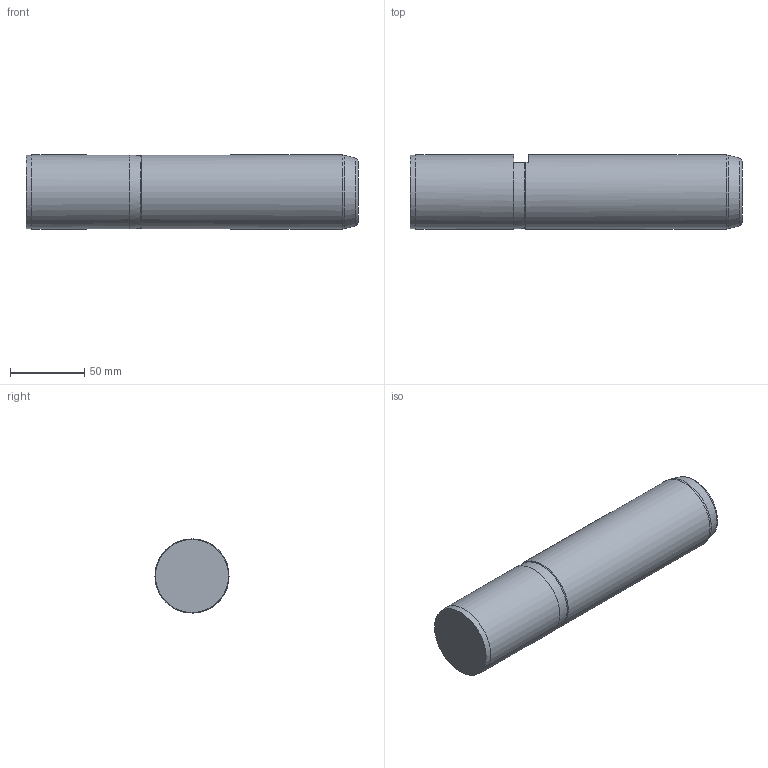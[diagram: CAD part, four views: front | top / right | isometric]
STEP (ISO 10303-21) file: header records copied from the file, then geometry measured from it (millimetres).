
FILE_DESCRIPTION(/* description */ ('Impex Ready, www.impex-ready.pl'),/* implementation_level */ '2;1');
FILE_NAME(/* name */ 'C:\Users\VIKKY\Nextcloud\SM\projekt 10 - części na stronę internetową\Pliki_3D_new\266 Słupy VW\266_Słupy_VW_STEP\VW50224.ipt.step',/* time_stamp */ '2022-01-18T10:02:02+01:00',/* author */ ('SM'),/* organization */ (''),/* preprocessor_version */ 'ST-DEVELOPER v18.1',/* originating_system */ 'Autodesk Inventor 2021',/* authorisation */ '');
FILE_SCHEMA (('AUTOMOTIVE_DESIGN { 1 0 10303 214 3 1 1 }'));
Length unit declared in the file: millimetre
Products named in the file (1): VW50224
Bounding box: 224 x 50 x 50 mm (x, y, z)
Volume: 436284.1 mm3; surface area: 38754 mm2
Topology: 1 solids, 1 shells, 13 faces, 30 edges, 19 vertices
Faces by surface type: plane 5, cone 4, cylinder 2, torus 2
Full cylindrical faces by diameter (mm): 50 x2
Entity records: 478 total; most frequent: CARTESIAN_POINT 93, DIRECTION 71, ORIENTED_EDGE 60, AXIS2_PLACEMENT_3D 31, EDGE_CURVE 30, VERTEX_POINT 19, CIRCLE 17, STYLED_ITEM 14
